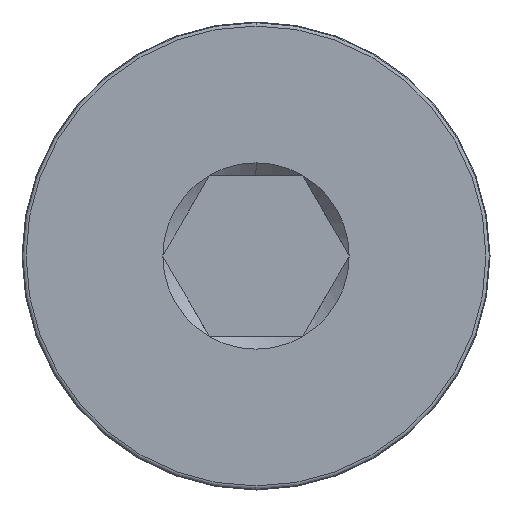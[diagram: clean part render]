
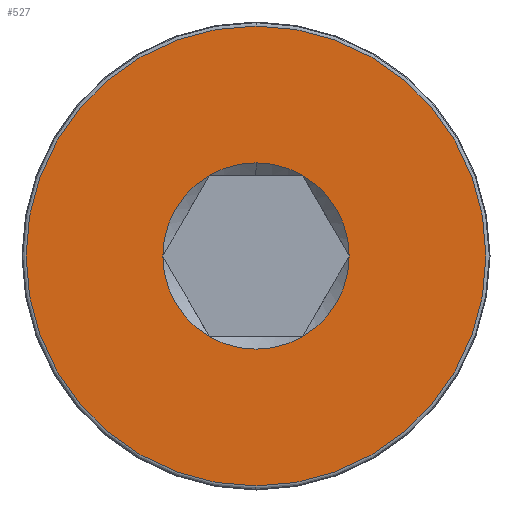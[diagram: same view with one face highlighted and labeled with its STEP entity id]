
A CAD part, left-side view. The second image highlights one B-rep face of the part: STEP entity #527.
In plain terms, the highlighted planar face has unit normal (-1, 0, 0).
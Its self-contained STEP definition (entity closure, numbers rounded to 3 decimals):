
#4 = VERTEX_POINT ( 'NONE', #538 ) ;
#8 = DIRECTION ( 'NONE',  ( 1., 0., 0. ) ) ;
#11 = DIRECTION ( 'NONE',  ( 0., 0., -1. ) ) ;
#41 = DIRECTION ( 'NONE',  ( -1., 0., 0. ) ) ;
#47 = AXIS2_PLACEMENT_3D ( 'NONE', #641, #105, #340 ) ;
#50 = DIRECTION ( 'NONE',  ( 1., 0., 0. ) ) ;
#66 = VERTEX_POINT ( 'NONE', #150 ) ;
#81 = EDGE_CURVE ( 'NONE', #500, #66, #237, .T. ) ;
#83 = EDGE_LOOP ( 'NONE', ( #570, #152 ) ) ;
#102 = CIRCLE ( 'NONE', #748, 1.155 ) ;
#105 = DIRECTION ( 'NONE',  ( -1., 0., 0. ) ) ;
#121 = DIRECTION ( 'NONE',  ( 0., 0., -1. ) ) ;
#130 = CARTESIAN_POINT ( 'NONE',  ( 0., 0., 0. ) ) ;
#143 = ORIENTED_EDGE ( 'NONE', *, *, #402, .T. ) ;
#150 = CARTESIAN_POINT ( 'NONE',  ( 0., 0., 2.85 ) ) ;
#152 = ORIENTED_EDGE ( 'NONE', *, *, #81, .T. ) ;
#163 = VERTEX_POINT ( 'NONE', #521 ) ;
#182 = CARTESIAN_POINT ( 'NONE',  ( 0., 0., 1.155 ) ) ;
#190 = DIRECTION ( 'NONE',  ( 0., 0., -1. ) ) ;
#191 = CIRCLE ( 'NONE', #422, 1.155 ) ;
#199 = AXIS2_PLACEMENT_3D ( 'NONE', #323, #745, #210 ) ;
#210 = DIRECTION ( 'NONE',  ( 0., 0., -1. ) ) ;
#214 = DIRECTION ( 'NONE',  ( 0., 0., -1. ) ) ;
#224 = CARTESIAN_POINT ( 'NONE',  ( 0., 0., -2.85 ) ) ;
#232 = CIRCLE ( 'NONE', #737, 2.85 ) ;
#233 = VERTEX_POINT ( 'NONE', #541 ) ;
#237 = CIRCLE ( 'NONE', #324, 2.85 ) ;
#253 = EDGE_CURVE ( 'NONE', #778, #4, #331, .T. ) ;
#261 = EDGE_CURVE ( 'NONE', #506, #163, #508, .T. ) ;
#266 = DIRECTION ( 'NONE',  ( 1., 0., 0. ) ) ;
#268 = ORIENTED_EDGE ( 'NONE', *, *, #438, .T. ) ;
#288 = VERTEX_POINT ( 'NONE', #501 ) ;
#292 = DIRECTION ( 'NONE',  ( 0., 0., -1. ) ) ;
#317 = CIRCLE ( 'NONE', #599, 1.155 ) ;
#323 = CARTESIAN_POINT ( 'NONE',  ( 0., 0., 0. ) ) ;
#324 = AXIS2_PLACEMENT_3D ( 'NONE', #450, #41, #390 ) ;
#326 = CARTESIAN_POINT ( 'NONE',  ( 0., -0.577, 1. ) ) ;
#331 = CIRCLE ( 'NONE', #776, 1.155 ) ;
#339 = ORIENTED_EDGE ( 'NONE', *, *, #605, .T. ) ;
#340 = DIRECTION ( 'NONE',  ( 0., 0., 1. ) ) ;
#350 = FACE_OUTER_BOUND ( 'NONE', #83, .T. ) ;
#373 = AXIS2_PLACEMENT_3D ( 'NONE', #566, #266, #214 ) ;
#379 = CARTESIAN_POINT ( 'NONE',  ( 0., 0., 0. ) ) ;
#383 = EDGE_CURVE ( 'NONE', #288, #640, #540, .T. ) ;
#390 = DIRECTION ( 'NONE',  ( 0., 0., 1. ) ) ;
#398 = PLANE ( 'NONE',  #47 ) ;
#402 = EDGE_CURVE ( 'NONE', #640, #778, #674, .T. ) ;
#404 = ORIENTED_EDGE ( 'NONE', *, *, #261, .T. ) ;
#422 = AXIS2_PLACEMENT_3D ( 'NONE', #615, #483, #190 ) ;
#425 = EDGE_LOOP ( 'NONE', ( #268, #759, #143, #548, #339, #404, #703 ) ) ;
#429 = CARTESIAN_POINT ( 'NONE',  ( 0., 0., 0. ) ) ;
#438 = EDGE_CURVE ( 'NONE', #233, #288, #102, .T. ) ;
#443 = DIRECTION ( 'NONE',  ( 0., 0., 1. ) ) ;
#450 = CARTESIAN_POINT ( 'NONE',  ( 0., 0., 0. ) ) ;
#483 = DIRECTION ( 'NONE',  ( 1., 0., 0. ) ) ;
#500 = VERTEX_POINT ( 'NONE', #224 ) ;
#501 = CARTESIAN_POINT ( 'NONE',  ( 0., 0.577, 1. ) ) ;
#506 = VERTEX_POINT ( 'NONE', #656 ) ;
#508 = CIRCLE ( 'NONE', #733, 1.155 ) ;
#519 = FACE_BOUND ( 'NONE', #425, .T. ) ;
#521 = CARTESIAN_POINT ( 'NONE',  ( 0., 0.577, -1. ) ) ;
#527 = ADVANCED_FACE ( 'NONE', ( #350, #519 ), #398, .T. ) ;
#538 = CARTESIAN_POINT ( 'NONE',  ( 0., -1.155, 0. ) ) ;
#540 = CIRCLE ( 'NONE', #199, 1.155 ) ;
#541 = CARTESIAN_POINT ( 'NONE',  ( 0., 1.155, 0. ) ) ;
#548 = ORIENTED_EDGE ( 'NONE', *, *, #253, .T. ) ;
#554 = DIRECTION ( 'NONE',  ( 1., 0., 0. ) ) ;
#563 = DIRECTION ( 'NONE',  ( -1., 0., 0. ) ) ;
#566 = CARTESIAN_POINT ( 'NONE',  ( 0., 0., 0. ) ) ;
#570 = ORIENTED_EDGE ( 'NONE', *, *, #684, .T. ) ;
#599 = AXIS2_PLACEMENT_3D ( 'NONE', #130, #554, #121 ) ;
#604 = CARTESIAN_POINT ( 'NONE',  ( 0., 0., 0. ) ) ;
#605 = EDGE_CURVE ( 'NONE', #4, #506, #317, .T. ) ;
#615 = CARTESIAN_POINT ( 'NONE',  ( 0., 0., 0. ) ) ;
#640 = VERTEX_POINT ( 'NONE', #182 ) ;
#641 = CARTESIAN_POINT ( 'NONE',  ( 0., 0., 0. ) ) ;
#643 = EDGE_CURVE ( 'NONE', #163, #233, #191, .T. ) ;
#656 = CARTESIAN_POINT ( 'NONE',  ( 0., -0.577, -1. ) ) ;
#670 = DIRECTION ( 'NONE',  ( 1., 0., 0. ) ) ;
#674 = CIRCLE ( 'NONE', #373, 1.155 ) ;
#684 = EDGE_CURVE ( 'NONE', #66, #500, #232, .T. ) ;
#703 = ORIENTED_EDGE ( 'NONE', *, *, #643, .T. ) ;
#709 = CARTESIAN_POINT ( 'NONE',  ( 0., 0., 0. ) ) ;
#727 = DIRECTION ( 'NONE',  ( 0., 0., -1. ) ) ;
#733 = AXIS2_PLACEMENT_3D ( 'NONE', #429, #670, #11 ) ;
#737 = AXIS2_PLACEMENT_3D ( 'NONE', #379, #563, #443 ) ;
#745 = DIRECTION ( 'NONE',  ( 1., 0., 0. ) ) ;
#748 = AXIS2_PLACEMENT_3D ( 'NONE', #709, #50, #292 ) ;
#759 = ORIENTED_EDGE ( 'NONE', *, *, #383, .T. ) ;
#776 = AXIS2_PLACEMENT_3D ( 'NONE', #604, #8, #727 ) ;
#778 = VERTEX_POINT ( 'NONE', #326 ) ;
